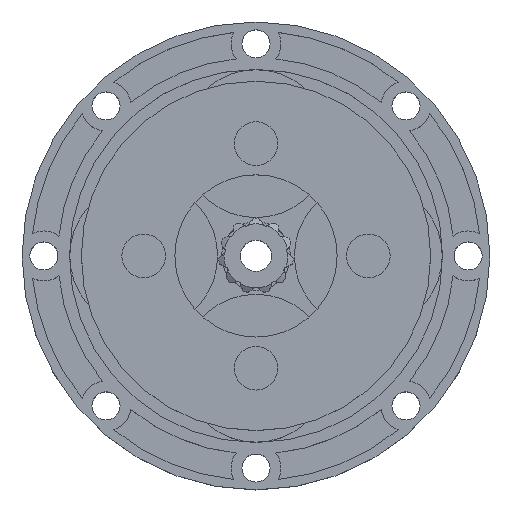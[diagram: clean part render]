
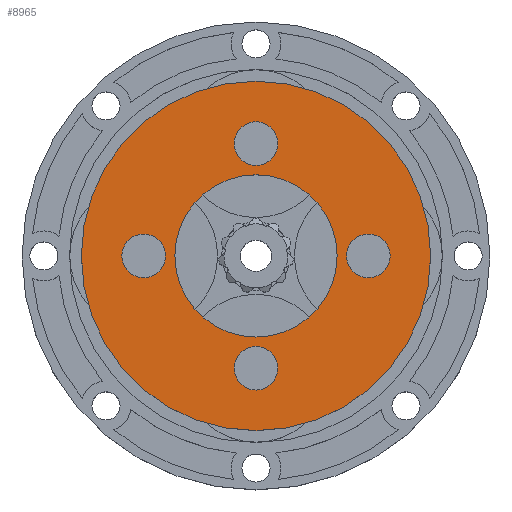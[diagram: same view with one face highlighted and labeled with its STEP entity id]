
A CAD part, top view. The second image highlights one B-rep face of the part: STEP entity #8965.
In plain terms, the highlighted planar face has unit normal (0, 0, 1).
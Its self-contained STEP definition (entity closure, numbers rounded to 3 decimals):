
#45 = FACE_BOUND ( 'NONE', #8039, .T. ) ;
#72 = DIRECTION ( 'NONE',  ( 0., 0., 1. ) ) ;
#79 = ORIENTED_EDGE ( 'NONE', *, *, #16694, .F. ) ;
#152 = CARTESIAN_POINT ( 'NONE',  ( 0., 18., 8.35 ) ) ;
#176 = DIRECTION ( 'NONE',  ( -1., 0., 0. ) ) ;
#296 = DIRECTION ( 'NONE',  ( 0., 0., 1. ) ) ;
#1120 = AXIS2_PLACEMENT_3D ( 'NONE', #16201, #9484, #2688 ) ;
#1189 = EDGE_CURVE ( 'NONE', #7673, #8928, #6414, .T. ) ;
#1488 = FACE_BOUND ( 'NONE', #17154, .T. ) ;
#1522 = ORIENTED_EDGE ( 'NONE', *, *, #13998, .F. ) ;
#1531 = EDGE_CURVE ( 'NONE', #2751, #16534, #11842, .T. ) ;
#1543 = DIRECTION ( 'NONE',  ( 1., 0., 0. ) ) ;
#1659 = EDGE_LOOP ( 'NONE', ( #3415, #6926 ) ) ;
#1760 = DIRECTION ( 'NONE',  ( 0., 1., 0. ) ) ;
#2133 = CIRCLE ( 'NONE', #5274, 3.5 ) ;
#2615 = DIRECTION ( 'NONE',  ( 0., 0., 1. ) ) ;
#2688 = DIRECTION ( 'NONE',  ( 0., 1., 0. ) ) ;
#2751 = VERTEX_POINT ( 'NONE', #15185 ) ;
#2813 = AXIS2_PLACEMENT_3D ( 'NONE', #3228, #12440, #176 ) ;
#2929 = DIRECTION ( 'NONE',  ( 0., 0., 1. ) ) ;
#2984 = EDGE_CURVE ( 'NONE', #4333, #3460, #3903, .T. ) ;
#3201 = DIRECTION ( 'NONE',  ( 0., 0., 1. ) ) ;
#3228 = CARTESIAN_POINT ( 'NONE',  ( 0., -18., 8.35 ) ) ;
#3415 = ORIENTED_EDGE ( 'NONE', *, *, #8586, .F. ) ;
#3460 = VERTEX_POINT ( 'NONE', #12622 ) ;
#3543 = DIRECTION ( 'NONE',  ( -1., 0., 0. ) ) ;
#3701 = VERTEX_POINT ( 'NONE', #4166 ) ;
#3713 = CIRCLE ( 'NONE', #9149, 3.5 ) ;
#3903 = CIRCLE ( 'NONE', #13907, 3.5 ) ;
#4166 = CARTESIAN_POINT ( 'NONE',  ( -3.5, -18., 8.35 ) ) ;
#4223 = DIRECTION ( 'NONE',  ( 0., -1., 0. ) ) ;
#4333 = VERTEX_POINT ( 'NONE', #16033 ) ;
#5001 = CARTESIAN_POINT ( 'NONE',  ( -13., 0., 8.35 ) ) ;
#5131 = CARTESIAN_POINT ( 'NONE',  ( -18., 3.5, 8.35 ) ) ;
#5252 = ORIENTED_EDGE ( 'NONE', *, *, #6005, .F. ) ;
#5274 = AXIS2_PLACEMENT_3D ( 'NONE', #13199, #8002, #3543 ) ;
#5407 = ORIENTED_EDGE ( 'NONE', *, *, #16195, .F. ) ;
#5625 = DIRECTION ( 'NONE',  ( 0., 0., 1. ) ) ;
#5674 = CIRCLE ( 'NONE', #2813, 3.5 ) ;
#5709 = CARTESIAN_POINT ( 'NONE',  ( 18., 3.5, 8.35 ) ) ;
#5807 = DIRECTION ( 'NONE',  ( 1., 0., 0. ) ) ;
#6002 = ORIENTED_EDGE ( 'NONE', *, *, #1531, .F. ) ;
#6005 = EDGE_CURVE ( 'NONE', #9098, #3701, #5674, .T. ) ;
#6414 = CIRCLE ( 'NONE', #16706, 28. ) ;
#6604 = AXIS2_PLACEMENT_3D ( 'NONE', #8336, #7995, #1543 ) ;
#6743 = CARTESIAN_POINT ( 'NONE',  ( 18., -3.5, 8.35 ) ) ;
#6852 = PLANE ( 'NONE',  #8337 ) ;
#6926 = ORIENTED_EDGE ( 'NONE', *, *, #2984, .F. ) ;
#6927 = CARTESIAN_POINT ( 'NONE',  ( 18., 0., 8.35 ) ) ;
#7031 = DIRECTION ( 'NONE',  ( 0., 0., 1. ) ) ;
#7206 = CARTESIAN_POINT ( 'NONE',  ( 3.5, -18., 8.35 ) ) ;
#7571 = AXIS2_PLACEMENT_3D ( 'NONE', #12443, #2615, #8063 ) ;
#7673 = VERTEX_POINT ( 'NONE', #12100 ) ;
#7995 = DIRECTION ( 'NONE',  ( 0., 0., 1. ) ) ;
#8002 = DIRECTION ( 'NONE',  ( 0., 0., 1. ) ) ;
#8039 = EDGE_LOOP ( 'NONE', ( #6002, #1522 ) ) ;
#8063 = DIRECTION ( 'NONE',  ( 1., 0., 0. ) ) ;
#8223 = DIRECTION ( 'NONE',  ( 0., 0., 1. ) ) ;
#8336 = CARTESIAN_POINT ( 'NONE',  ( 0., 0., 8.35 ) ) ;
#8337 = AXIS2_PLACEMENT_3D ( 'NONE', #12309, #7031, #10785 ) ;
#8414 = AXIS2_PLACEMENT_3D ( 'NONE', #12407, #2929, #1760 ) ;
#8418 = DIRECTION ( 'NONE',  ( 0., 0., 1. ) ) ;
#8586 = EDGE_CURVE ( 'NONE', #3460, #4333, #12329, .T. ) ;
#8649 = DIRECTION ( 'NONE',  ( 1., 0., 0. ) ) ;
#8832 = CIRCLE ( 'NONE', #1120, 3.5 ) ;
#8906 = EDGE_LOOP ( 'NONE', ( #9832, #13596 ) ) ;
#8928 = VERTEX_POINT ( 'NONE', #10616 ) ;
#8965 = ADVANCED_FACE ( 'NONE', ( #45, #1488, #15083, #17616, #10877, #13655 ), #6852, .T. ) ;
#9098 = VERTEX_POINT ( 'NONE', #7206 ) ;
#9149 = AXIS2_PLACEMENT_3D ( 'NONE', #6927, #296, #12559 ) ;
#9335 = EDGE_LOOP ( 'NONE', ( #5407, #79 ) ) ;
#9444 = VERTEX_POINT ( 'NONE', #6743 ) ;
#9456 = AXIS2_PLACEMENT_3D ( 'NONE', #13714, #8418, #4223 ) ;
#9484 = DIRECTION ( 'NONE',  ( 0., 0., 1. ) ) ;
#9763 = AXIS2_PLACEMENT_3D ( 'NONE', #152, #5625, #11070 ) ;
#9832 = ORIENTED_EDGE ( 'NONE', *, *, #14937, .F. ) ;
#10544 = EDGE_CURVE ( 'NONE', #3701, #9098, #2133, .T. ) ;
#10616 = CARTESIAN_POINT ( 'NONE',  ( 28., 0., 8.35 ) ) ;
#10785 = DIRECTION ( 'NONE',  ( 1., 0., 0. ) ) ;
#10877 = FACE_OUTER_BOUND ( 'NONE', #17551, .T. ) ;
#10936 = ORIENTED_EDGE ( 'NONE', *, *, #1189, .T. ) ;
#11070 = DIRECTION ( 'NONE',  ( 1., 0., 0. ) ) ;
#11137 = EDGE_CURVE ( 'NONE', #8928, #7673, #15280, .T. ) ;
#11255 = ORIENTED_EDGE ( 'NONE', *, *, #11137, .T. ) ;
#11740 = CIRCLE ( 'NONE', #6604, 13. ) ;
#11748 = CIRCLE ( 'NONE', #14052, 13. ) ;
#11774 = CARTESIAN_POINT ( 'NONE',  ( 0., 18., 8.35 ) ) ;
#11842 = CIRCLE ( 'NONE', #8414, 3.5 ) ;
#12100 = CARTESIAN_POINT ( 'NONE',  ( -28., 0., 8.35 ) ) ;
#12309 = CARTESIAN_POINT ( 'NONE',  ( 0., 0., 8.35 ) ) ;
#12329 = CIRCLE ( 'NONE', #9763, 3.5 ) ;
#12407 = CARTESIAN_POINT ( 'NONE',  ( -18., 0., 8.35 ) ) ;
#12440 = DIRECTION ( 'NONE',  ( 0., 0., 1. ) ) ;
#12443 = CARTESIAN_POINT ( 'NONE',  ( 0., 0., 8.35 ) ) ;
#12559 = DIRECTION ( 'NONE',  ( 0., -1., 0. ) ) ;
#12622 = CARTESIAN_POINT ( 'NONE',  ( -3.5, 18., 8.35 ) ) ;
#12646 = CARTESIAN_POINT ( 'NONE',  ( 13., 0., 8.35 ) ) ;
#12658 = VERTEX_POINT ( 'NONE', #5709 ) ;
#12875 = CIRCLE ( 'NONE', #9456, 3.5 ) ;
#13199 = CARTESIAN_POINT ( 'NONE',  ( 0., -18., 8.35 ) ) ;
#13596 = ORIENTED_EDGE ( 'NONE', *, *, #17065, .F. ) ;
#13655 = FACE_BOUND ( 'NONE', #8906, .T. ) ;
#13688 = CARTESIAN_POINT ( 'NONE',  ( 0., 0., 8.35 ) ) ;
#13714 = CARTESIAN_POINT ( 'NONE',  ( 18., 0., 8.35 ) ) ;
#13907 = AXIS2_PLACEMENT_3D ( 'NONE', #11774, #3201, #8649 ) ;
#13998 = EDGE_CURVE ( 'NONE', #16534, #2751, #8832, .T. ) ;
#14052 = AXIS2_PLACEMENT_3D ( 'NONE', #15030, #8223, #16197 ) ;
#14730 = ORIENTED_EDGE ( 'NONE', *, *, #10544, .F. ) ;
#14937 = EDGE_CURVE ( 'NONE', #15416, #16192, #11740, .T. ) ;
#15030 = CARTESIAN_POINT ( 'NONE',  ( 0., 0., 8.35 ) ) ;
#15083 = FACE_BOUND ( 'NONE', #9335, .T. ) ;
#15185 = CARTESIAN_POINT ( 'NONE',  ( -18., -3.5, 8.35 ) ) ;
#15280 = CIRCLE ( 'NONE', #7571, 28. ) ;
#15416 = VERTEX_POINT ( 'NONE', #5001 ) ;
#16033 = CARTESIAN_POINT ( 'NONE',  ( 3.5, 18., 8.35 ) ) ;
#16192 = VERTEX_POINT ( 'NONE', #12646 ) ;
#16195 = EDGE_CURVE ( 'NONE', #12658, #9444, #3713, .T. ) ;
#16197 = DIRECTION ( 'NONE',  ( 1., 0., 0. ) ) ;
#16201 = CARTESIAN_POINT ( 'NONE',  ( -18., 0., 8.35 ) ) ;
#16534 = VERTEX_POINT ( 'NONE', #5131 ) ;
#16694 = EDGE_CURVE ( 'NONE', #9444, #12658, #12875, .T. ) ;
#16706 = AXIS2_PLACEMENT_3D ( 'NONE', #13688, #72, #5807 ) ;
#17065 = EDGE_CURVE ( 'NONE', #16192, #15416, #11748, .T. ) ;
#17154 = EDGE_LOOP ( 'NONE', ( #5252, #14730 ) ) ;
#17551 = EDGE_LOOP ( 'NONE', ( #10936, #11255 ) ) ;
#17616 = FACE_BOUND ( 'NONE', #1659, .T. ) ;
